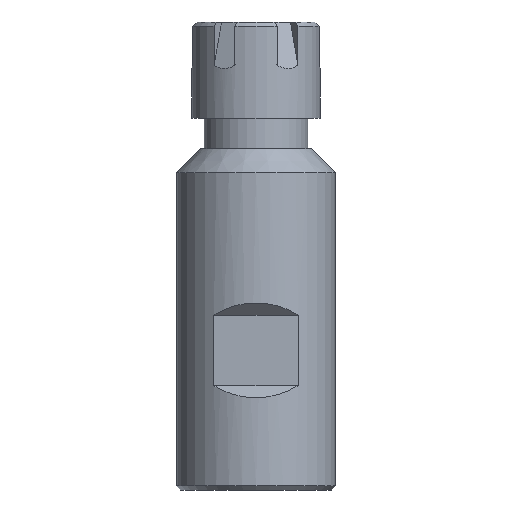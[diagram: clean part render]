
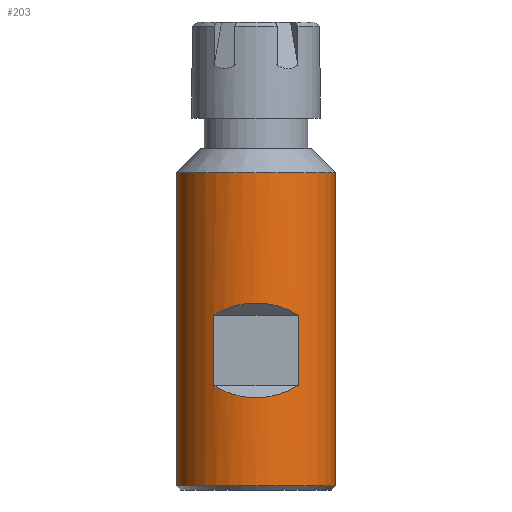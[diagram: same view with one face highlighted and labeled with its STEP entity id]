
A CAD part, front view. The second image highlights one B-rep face of the part: STEP entity #203.
In plain terms, the highlighted cylindrical face has radius 9.9 mm (diameter 19.8 mm), a partial arc.
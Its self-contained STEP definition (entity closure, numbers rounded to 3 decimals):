
#14 =( BOUNDED_CURVE ( )  B_SPLINE_CURVE ( 3, ( #768, #767, #766, #765 ),
 .UNSPECIFIED., .F., .F. ) 
 B_SPLINE_CURVE_WITH_KNOTS ( ( 4, 4 ),
 ( 2.584, 3.699 ),
 .UNSPECIFIED. ) 
 CURVE ( )  GEOMETRIC_REPRESENTATION_ITEM ( )  RATIONAL_B_SPLINE_CURVE ( ( 1., 0.899, 0.899, 1. ) ) 
 REPRESENTATION_ITEM ( '' )  );
#81 = EDGE_CURVE ( 'NONE', #421, #420, #650, .T. ) ;
#143 = VERTEX_POINT ( 'NONE', #746 ) ;
#144 = VERTEX_POINT ( 'NONE', #745 ) ;
#145 = EDGE_CURVE ( 'NONE', #144, #143, #744, .T. ) ;
#150 = EDGE_CURVE ( 'NONE', #478, #413, #783, .T. ) ;
#160 = EDGE_CURVE ( 'NONE', #169, #164, #14, .T. ) ;
#163 = EDGE_CURVE ( 'NONE', #164, #144, #821, .T. ) ;
#164 = VERTEX_POINT ( 'NONE', #814 ) ;
#169 = VERTEX_POINT ( 'NONE', #803 ) ;
#181 = EDGE_CURVE ( 'NONE', #143, #169, #847, .T. ) ;
#187 = ORIENTED_EDGE ( 'NONE', *, *, #181, .T. ) ;
#188 = ORIENTED_EDGE ( 'NONE', *, *, #145, .T. ) ;
#196 = ORIENTED_EDGE ( 'NONE', *, *, #163, .T. ) ;
#197 = EDGE_LOOP ( 'NONE', ( #198, #196, #188, #187 ) ) ;
#198 = ORIENTED_EDGE ( 'NONE', *, *, #160, .T. ) ;
#199 = ORIENTED_EDGE ( 'NONE', *, *, #425, .F. ) ;
#200 = ORIENTED_EDGE ( 'NONE', *, *, #393, .T. ) ;
#201 = ORIENTED_EDGE ( 'NONE', *, *, #150, .T. ) ;
#202 = EDGE_LOOP ( 'NONE', ( #199, #204, #200, #201 ) ) ;
#203 = ADVANCED_FACE ( 'NONE', ( #830, #829 ), #828, .T. ) ;
#204 = ORIENTED_EDGE ( 'NONE', *, *, #81, .T. ) ;
#393 = EDGE_CURVE ( 'NONE', #420, #478, #1163, .T. ) ;
#413 = VERTEX_POINT ( 'NONE', #1232 ) ;
#420 = VERTEX_POINT ( 'NONE', #1226 ) ;
#421 = VERTEX_POINT ( 'NONE', #1225 ) ;
#425 = EDGE_CURVE ( 'NONE', #421, #413, #1217, .T. ) ;
#478 = VERTEX_POINT ( 'NONE', #1343 ) ;
#650 = CIRCLE ( 'NONE', #705, 9.9 ) ;
#702 = DIRECTION ( 'NONE',  ( 1., 0., 0. ) ) ;
#703 = DIRECTION ( 'NONE',  ( 0., 0., 1. ) ) ;
#704 = CARTESIAN_POINT ( 'NONE',  ( 0., 0., 0.5 ) ) ;
#705 = AXIS2_PLACEMENT_3D ( 'NONE', #704, #703, #702 ) ;
#741 = CARTESIAN_POINT ( 'NONE',  ( 1.943, -10.456, 23.856 ) ) ;
#742 = CARTESIAN_POINT ( 'NONE',  ( -1.943, -10.456, 23.856 ) ) ;
#743 = CARTESIAN_POINT ( 'NONE',  ( -5.239, -8.4, 21.8 ) ) ;
#744 =( BOUNDED_CURVE ( )  B_SPLINE_CURVE ( 3, ( #743, #742, #741, #791 ),
 .UNSPECIFIED., .F., .T. ) 
 B_SPLINE_CURVE_WITH_KNOTS ( ( 4, 4 ),
 ( 5.726, 6.841 ),
 .UNSPECIFIED. ) 
 CURVE ( )  GEOMETRIC_REPRESENTATION_ITEM ( )  RATIONAL_B_SPLINE_CURVE ( ( 1., 0.899, 0.899, 1. ) ) 
 REPRESENTATION_ITEM ( '' )  );
#745 = CARTESIAN_POINT ( 'NONE',  ( -5.239, -8.4, 21.8 ) ) ;
#746 = CARTESIAN_POINT ( 'NONE',  ( 5.239, -8.4, 21.8 ) ) ;
#765 = CARTESIAN_POINT ( 'NONE',  ( -5.239, -8.4, 13. ) ) ;
#766 = CARTESIAN_POINT ( 'NONE',  ( -1.943, -10.456, 10.944 ) ) ;
#767 = CARTESIAN_POINT ( 'NONE',  ( 1.943, -10.456, 10.944 ) ) ;
#768 = CARTESIAN_POINT ( 'NONE',  ( 5.239, -8.4, 13. ) ) ;
#775 = DIRECTION ( 'NONE',  ( 1., 0., 0. ) ) ;
#776 = DIRECTION ( 'NONE',  ( 0., 0., -1. ) ) ;
#777 = CARTESIAN_POINT ( 'NONE',  ( 0., 0., 39.5 ) ) ;
#778 = AXIS2_PLACEMENT_3D ( 'NONE', #777, #776, #775 ) ;
#783 = CIRCLE ( 'NONE', #778, 9.9 ) ;
#791 = CARTESIAN_POINT ( 'NONE',  ( 5.239, -8.4, 21.8 ) ) ;
#803 = CARTESIAN_POINT ( 'NONE',  ( 5.239, -8.4, 13. ) ) ;
#814 = CARTESIAN_POINT ( 'NONE',  ( -5.239, -8.4, 13. ) ) ;
#815 = DIRECTION ( 'NONE',  ( 0., 0., 1. ) ) ;
#816 = VECTOR ( 'NONE', #815, 1000. ) ;
#817 = CARTESIAN_POINT ( 'NONE',  ( -5.239, -8.4, 0. ) ) ;
#821 = LINE ( 'NONE', #817, #816 ) ;
#825 = DIRECTION ( 'NONE',  ( 0., 0., 1. ) ) ;
#826 = CARTESIAN_POINT ( 'NONE',  ( 0., 0., 0. ) ) ;
#827 = AXIS2_PLACEMENT_3D ( 'NONE', #826, #825, #872 ) ;
#828 = CYLINDRICAL_SURFACE ( 'NONE', #827, 9.9 ) ;
#829 = FACE_BOUND ( 'NONE', #197, .T. ) ;
#830 = FACE_OUTER_BOUND ( 'NONE', #202, .T. ) ;
#841 = DIRECTION ( 'NONE',  ( 0., 0., -1. ) ) ;
#842 = VECTOR ( 'NONE', #841, 1000. ) ;
#843 = CARTESIAN_POINT ( 'NONE',  ( 5.239, -8.4, 0. ) ) ;
#847 = LINE ( 'NONE', #843, #842 ) ;
#872 = DIRECTION ( 'NONE',  ( 1., 0., 0. ) ) ;
#995 = DIRECTION ( 'NONE',  ( 0., 0., 1. ) ) ;
#1163 = LINE ( 'NONE', #1214, #1213 ) ;
#1212 = DIRECTION ( 'NONE',  ( 0., 0., 1. ) ) ;
#1213 = VECTOR ( 'NONE', #1212, 1000. ) ;
#1214 = CARTESIAN_POINT ( 'NONE',  ( 9.9, 0., 0. ) ) ;
#1215 = VECTOR ( 'NONE', #995, 1000. ) ;
#1216 = CARTESIAN_POINT ( 'NONE',  ( -9.9, 0., 0. ) ) ;
#1217 = LINE ( 'NONE', #1216, #1215 ) ;
#1225 = CARTESIAN_POINT ( 'NONE',  ( -9.9, 0., 0.5 ) ) ;
#1226 = CARTESIAN_POINT ( 'NONE',  ( 9.9, 0., 0.5 ) ) ;
#1232 = CARTESIAN_POINT ( 'NONE',  ( -9.9, 0., 39.5 ) ) ;
#1343 = CARTESIAN_POINT ( 'NONE',  ( 9.9, 0., 39.5 ) ) ;
